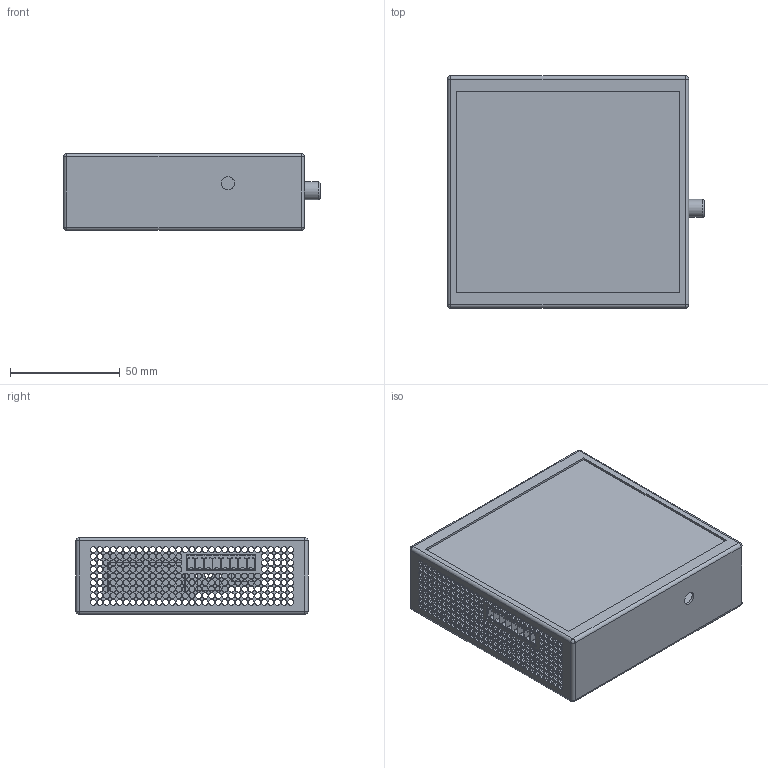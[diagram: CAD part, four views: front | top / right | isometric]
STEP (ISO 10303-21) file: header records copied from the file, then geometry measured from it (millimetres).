
FILE_DESCRIPTION(('FreeCAD Model'),'2;1');
FILE_NAME('Y:/3-AV-Parts-Sales/Produkte/nexgentec/NGTC-CRBIBOB/drawings/NGTC-CRBIBOB complete.step','2020-12-22T09:49:27',('Author'),(''), 'Open CASCADE STEP processor 7.3','FreeCAD','Unknown');
FILE_SCHEMA(('AUTOMOTIVE_DESIGN { 1 0 10303 214 1 1 1 1 }'));
Length unit declared in the file: millimetre
Products named in the file (6): Body; Body_phoenix_socket_8pin; Body_RJ45_with_LED001; Body_Toslink; Body_Coax; Body_RJ45_with_LED
Bounding box: 117.25 x 106 x 35 mm (x, y, z)
Volume: 68957 mm3; surface area: 79408.9 mm2
Topology: 6 solids, 6 shells, 657 faces, 1843 edges, 1208 vertices
Faces by surface type: cylinder 393, plane 254, sphere 8, cone 1, torus 1
Full cylindrical faces by diameter (mm): 2.7 x369, 3.5 x1, 6 x1, 8.2 x1, 12 x1
Entity records: 47980 total; most frequent: CARTESIAN_POINT 9651, DIRECTION 7230, LINE 3954, VECTOR 3954, ORIENTED_EDGE 3670, PCURVE 3670, DEFINITIONAL_REPRESENTATION 3670, EDGE_CURVE 1835
